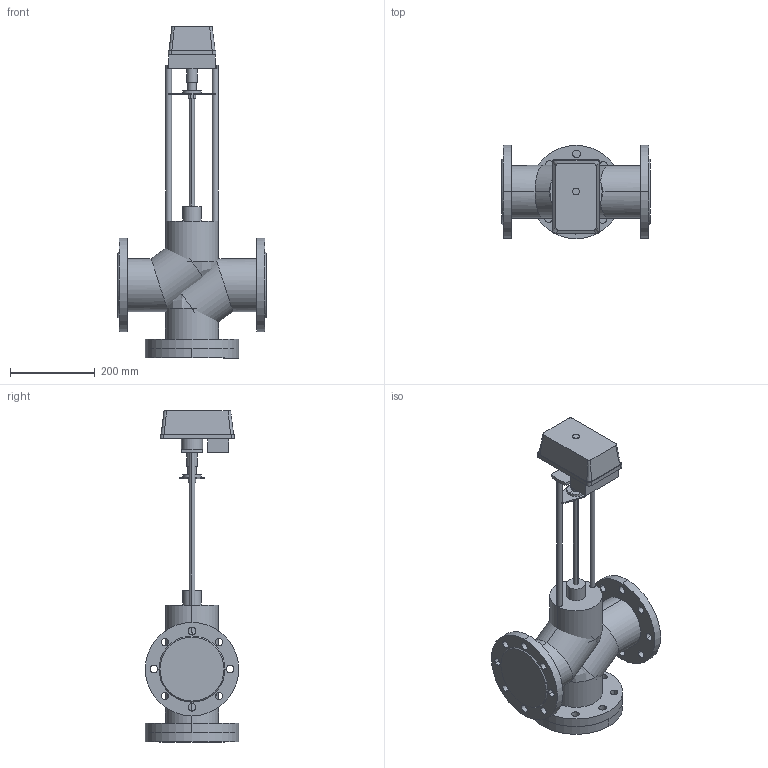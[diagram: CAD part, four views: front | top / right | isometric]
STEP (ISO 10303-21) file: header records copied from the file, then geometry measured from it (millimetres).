
FILE_DESCRIPTION(/* description */ (''),/* implementation_level */ '2;1');
FILE_NAME(/* name */ 'ТРК DN100 PN 1.6 МПа МИЭП-1 10000',/* time_stamp */ '2026-07-14T23:26:34+03:00',/* author */ (''),/* organization */ (''),/* preprocessor_version */ 'ST-DEVELOPER v20',/* originating_system */ '',/* authorisation */ '');
FILE_SCHEMA (('AP242_MANAGED_MODEL_BASED_3D_ENGINEERING_MIM_LF { 1 0 10303 442 1 1 4 }'));
Length unit declared in the file: millimetre
Products named in the file (14): TopLevelAssembly; Выдавливание; Модификатор; Модификатор_1; Выдавливание_
1; Выдавливание_
2; Вращение; Выдавливание_
3; Выдавливание_
4; 10000; Переход; Объемная геометрия 
присоединена; Полый Выдавливание; Объемная геометрия 
присоединена_1
Assembly tree (13 placements, depth 2):
  TopLevelAssembly
    Выдавливание
    Модификатор
    Модификатор_1
    Выдавливание_
1
    Выдавливание_
2
    Вращение
    Выдавливание_
3
    Выдавливание_
4
    10000
    Переход
    Объемная геометрия 
присоединена
    Полый Выдавливание
    Объемная геометрия 
присоединена_1
Bounding box: 350 x 220 x 783 mm (x, y, z)
Volume: 12618490.9 mm3; surface area: 1015203.5 mm2
Topology: 23 solids, 23 shells, 200 faces, 441 edges, 282 vertices
Faces by surface type: cylinder 104, plane 84, bspline 8, cone 4
Entity records: 6283 total; most frequent: CARTESIAN_POINT 1130, DIRECTION 1099, ORIENTED_EDGE 866, AXIS2_PLACEMENT_3D 447, EDGE_CURVE 433, VERTEX_POINT 282, EDGE_LOOP 255, CIRCLE 220
